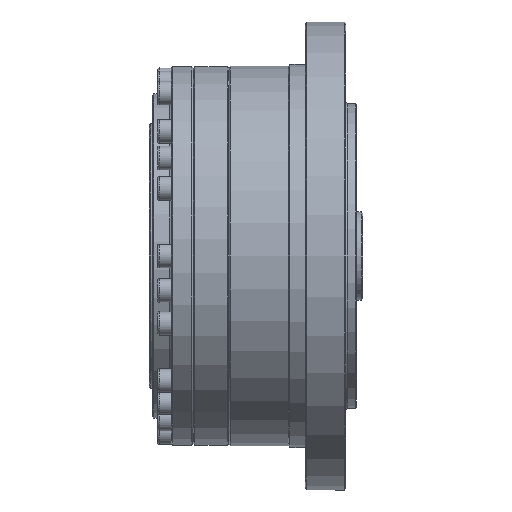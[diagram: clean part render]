
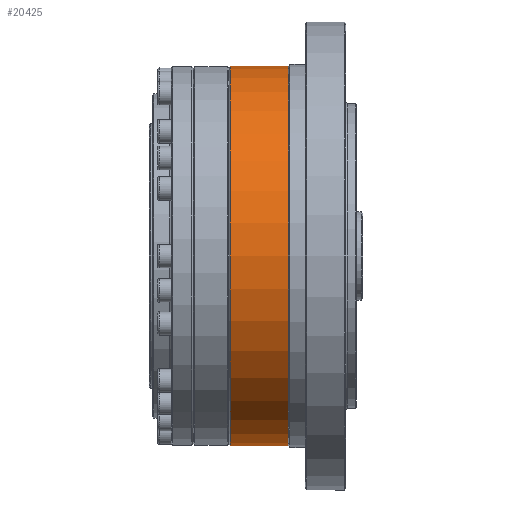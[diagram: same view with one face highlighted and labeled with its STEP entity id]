
A CAD part, front view. The second image highlights one B-rep face of the part: STEP entity #20425.
In plain terms, the highlighted cylindrical face has radius 56 mm (diameter 112 mm), a full revolution.
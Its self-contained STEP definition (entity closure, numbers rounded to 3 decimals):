
#1221 = VERTEX_POINT ( 'NONE', #8099 ) ;
#2833 = AXIS2_PLACEMENT_3D ( 'NONE', #18416, #23375, #16033 ) ;
#3800 = FACE_OUTER_BOUND ( 'NONE', #23816, .T. ) ;
#4903 = EDGE_CURVE ( 'NONE', #26935, #26935, #18187, .T. ) ;
#6427 = CARTESIAN_POINT ( 'NONE',  ( 4.9, 0., -56. ) ) ;
#8099 = CARTESIAN_POINT ( 'NONE',  ( 22., 0., -56. ) ) ;
#8631 = DIRECTION ( 'NONE',  ( -1., 0., 0. ) ) ;
#9400 = AXIS2_PLACEMENT_3D ( 'NONE', #27118, #15312, #22486 ) ;
#13951 = ORIENTED_EDGE ( 'NONE', *, *, #19372, .T. ) ;
#15312 = DIRECTION ( 'NONE',  ( -1., 0., 0. ) ) ;
#15460 = FACE_OUTER_BOUND ( 'NONE', #21959, .T. ) ;
#16033 = DIRECTION ( 'NONE',  ( 0., 0., -1. ) ) ;
#18133 = CIRCLE ( 'NONE', #2833, 56. ) ;
#18187 = CIRCLE ( 'NONE', #28234, 56. ) ;
#18416 = CARTESIAN_POINT ( 'NONE',  ( 22., 0., 0. ) ) ;
#19372 = EDGE_CURVE ( 'NONE', #1221, #1221, #18133, .T. ) ;
#20379 = CYLINDRICAL_SURFACE ( 'NONE', #9400, 56. ) ;
#20425 = ADVANCED_FACE ( 'NONE', ( #3800, #15460 ), #20379, .T. ) ;
#21959 = EDGE_LOOP ( 'NONE', ( #13951 ) ) ;
#22196 = ORIENTED_EDGE ( 'NONE', *, *, #4903, .F. ) ;
#22486 = DIRECTION ( 'NONE',  ( 0., 0., -1. ) ) ;
#22557 = CARTESIAN_POINT ( 'NONE',  ( 4.9, 0., 0. ) ) ;
#23375 = DIRECTION ( 'NONE',  ( -1., 0., 0. ) ) ;
#23816 = EDGE_LOOP ( 'NONE', ( #22196 ) ) ;
#26935 = VERTEX_POINT ( 'NONE', #6427 ) ;
#27118 = CARTESIAN_POINT ( 'NONE',  ( 2., 0., 0. ) ) ;
#28234 = AXIS2_PLACEMENT_3D ( 'NONE', #22557, #8631, #29285 ) ;
#29285 = DIRECTION ( 'NONE',  ( 0., 0., -1. ) ) ;
